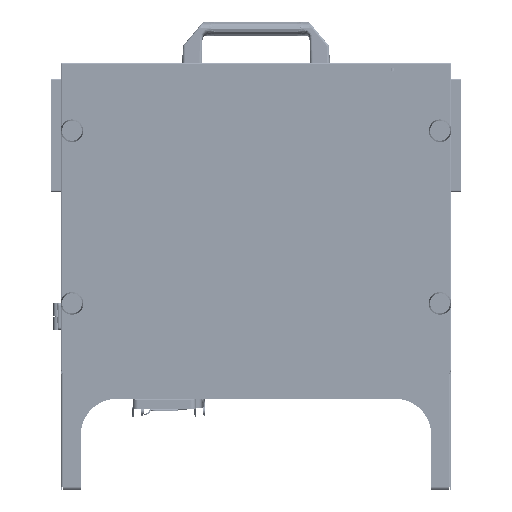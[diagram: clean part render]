
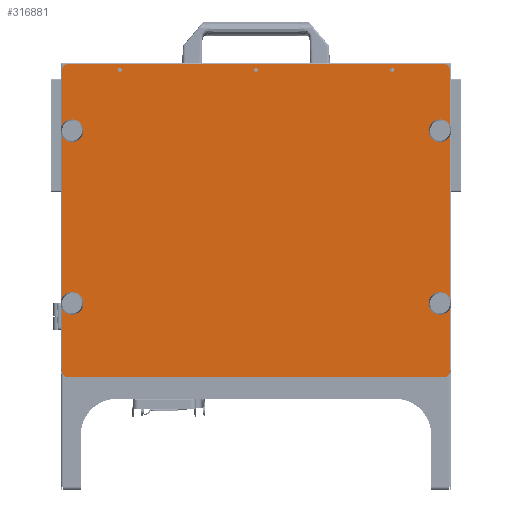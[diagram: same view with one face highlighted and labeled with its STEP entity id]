
A CAD part, top view. The second image highlights one B-rep face of the part: STEP entity #316881.
In plain terms, the highlighted planar face has unit normal (0, 0, 1) as drawn and (0, 0, -1) by its records, which use the part's own axes.
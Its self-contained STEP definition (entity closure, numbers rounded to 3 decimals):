
#316172=CARTESIAN_POINT('',(213.,338.,0.));
#316173=DIRECTION('',(0.,0.,1.));
#316174=DIRECTION('',(1.,0.,0.));
#316175=AXIS2_PLACEMENT_3D('',#316172,#316173,#316174);
#316177=CARTESIAN_POINT('',(213.,338.,0.));
#316178=DIRECTION('',(0.,0.,1.));
#316179=DIRECTION('',(-1.,0.,0.));
#316180=AXIS2_PLACEMENT_3D('',#316177,#316178,#316179);
#316182=CARTESIAN_POINT('',(363.,338.,0.));
#316183=DIRECTION('',(0.,0.,1.));
#316184=DIRECTION('',(1.,0.,0.));
#316185=AXIS2_PLACEMENT_3D('',#316182,#316183,#316184);
#316187=CARTESIAN_POINT('',(363.,338.,0.));
#316188=DIRECTION('',(0.,0.,1.));
#316189=DIRECTION('',(-1.,0.,0.));
#316190=AXIS2_PLACEMENT_3D('',#316187,#316188,#316189);
#316192=CARTESIAN_POINT('',(63.,338.,0.));
#316193=DIRECTION('',(0.,0.,1.));
#316194=DIRECTION('',(1.,0.,0.));
#316195=AXIS2_PLACEMENT_3D('',#316192,#316193,#316194);
#316197=CARTESIAN_POINT('',(63.,338.,0.));
#316198=DIRECTION('',(0.,0.,1.));
#316199=DIRECTION('',(-1.,0.,0.));
#316200=AXIS2_PLACEMENT_3D('',#316197,#316198,#316199);
#316202=CARTESIAN_POINT('',(10.5,271.,0.));
#316203=DIRECTION('',(0.,0.,1.));
#316204=DIRECTION('',(1.,0.,0.));
#316205=AXIS2_PLACEMENT_3D('',#316202,#316203,#316204);
#316207=CARTESIAN_POINT('',(10.5,271.,0.));
#316208=DIRECTION('',(0.,0.,1.));
#316209=DIRECTION('',(-1.,0.,0.));
#316210=AXIS2_PLACEMENT_3D('',#316207,#316208,#316209);
#316212=CARTESIAN_POINT('',(415.5,271.,0.));
#316213=DIRECTION('',(0.,0.,1.));
#316214=DIRECTION('',(1.,0.,0.));
#316215=AXIS2_PLACEMENT_3D('',#316212,#316213,#316214);
#316217=CARTESIAN_POINT('',(415.5,271.,0.));
#316218=DIRECTION('',(0.,0.,1.));
#316219=DIRECTION('',(-1.,0.,0.));
#316220=AXIS2_PLACEMENT_3D('',#316217,#316218,#316219);
#316222=CARTESIAN_POINT('',(10.5,81.,0.));
#316223=DIRECTION('',(0.,0.,1.));
#316224=DIRECTION('',(1.,0.,0.));
#316225=AXIS2_PLACEMENT_3D('',#316222,#316223,#316224);
#316227=CARTESIAN_POINT('',(10.5,81.,0.));
#316228=DIRECTION('',(0.,0.,1.));
#316229=DIRECTION('',(-1.,0.,0.));
#316230=AXIS2_PLACEMENT_3D('',#316227,#316228,#316229);
#316232=CARTESIAN_POINT('',(415.5,81.,0.));
#316233=DIRECTION('',(0.,0.,1.));
#316234=DIRECTION('',(1.,0.,0.));
#316235=AXIS2_PLACEMENT_3D('',#316232,#316233,#316234);
#316237=CARTESIAN_POINT('',(415.5,81.,0.));
#316238=DIRECTION('',(0.,0.,1.));
#316239=DIRECTION('',(-1.,0.,0.));
#316240=AXIS2_PLACEMENT_3D('',#316237,#316238,#316239);
#316242=CARTESIAN_POINT('',(5.,5.,0.));
#316243=DIRECTION('',(0.,0.,-1.));
#316244=DIRECTION('',(0.,-1.,0.));
#316245=AXIS2_PLACEMENT_3D('',#316242,#316243,#316244);
#316247=DIRECTION('',(1.,0.,0.));
#316248=VECTOR('',#316247,416.);
#316249=CARTESIAN_POINT('',(5.,0.,0.));
#316250=LINE('',#316249,#316248);
#316251=CARTESIAN_POINT('',(421.,5.,0.));
#316252=DIRECTION('',(0.,0.,-1.));
#316253=DIRECTION('',(1.,0.,0.));
#316254=AXIS2_PLACEMENT_3D('',#316251,#316252,#316253);
#316256=DIRECTION('',(0.,1.,0.));
#316257=VECTOR('',#316256,334.);
#316258=CARTESIAN_POINT('',(426.,5.,0.));
#316259=LINE('',#316258,#316257);
#316260=CARTESIAN_POINT('',(421.,339.,0.));
#316261=DIRECTION('',(0.,0.,-1.));
#316262=DIRECTION('',(0.,1.,0.));
#316263=AXIS2_PLACEMENT_3D('',#316260,#316261,#316262);
#316265=DIRECTION('',(-1.,0.,0.));
#316266=VECTOR('',#316265,416.);
#316267=CARTESIAN_POINT('',(421.,344.,0.));
#316268=LINE('',#316267,#316266);
#316269=CARTESIAN_POINT('',(5.,339.,0.));
#316270=DIRECTION('',(0.,0.,-1.));
#316271=DIRECTION('',(-1.,0.,0.));
#316272=AXIS2_PLACEMENT_3D('',#316269,#316270,#316271);
#316274=DIRECTION('',(0.,-1.,0.));
#316275=VECTOR('',#316274,334.);
#316276=CARTESIAN_POINT('',(0.,339.,0.));
#316277=LINE('',#316276,#316275);
#316664=CARTESIAN_POINT('',(215.2,338.,0.));
#316665=CARTESIAN_POINT('',(210.8,338.,0.));
#316666=VERTEX_POINT('',#316664);
#316667=VERTEX_POINT('',#316665);
#316668=CARTESIAN_POINT('',(365.2,338.,0.));
#316669=CARTESIAN_POINT('',(360.8,338.,0.));
#316670=VERTEX_POINT('',#316668);
#316671=VERTEX_POINT('',#316669);
#316672=CARTESIAN_POINT('',(65.2,338.,0.));
#316673=CARTESIAN_POINT('',(60.8,338.,0.));
#316674=VERTEX_POINT('',#316672);
#316675=VERTEX_POINT('',#316673);
#316752=CARTESIAN_POINT('',(14.5,271.,0.));
#316753=CARTESIAN_POINT('',(6.5,271.,0.));
#316754=VERTEX_POINT('',#316752);
#316755=VERTEX_POINT('',#316753);
#316756=CARTESIAN_POINT('',(419.5,271.,0.));
#316757=CARTESIAN_POINT('',(411.5,271.,0.));
#316758=VERTEX_POINT('',#316756);
#316759=VERTEX_POINT('',#316757);
#316768=CARTESIAN_POINT('',(5.,0.,0.));
#316769=CARTESIAN_POINT('',(0.,5.,0.));
#316770=VERTEX_POINT('',#316768);
#316771=VERTEX_POINT('',#316769);
#316776=CARTESIAN_POINT('',(426.,5.,0.));
#316777=CARTESIAN_POINT('',(421.,0.,0.));
#316778=VERTEX_POINT('',#316776);
#316779=VERTEX_POINT('',#316777);
#316784=CARTESIAN_POINT('',(421.,344.,0.));
#316785=CARTESIAN_POINT('',(426.,339.,0.));
#316786=VERTEX_POINT('',#316784);
#316787=VERTEX_POINT('',#316785);
#316792=CARTESIAN_POINT('',(0.,339.,0.));
#316793=CARTESIAN_POINT('',(5.,344.,0.));
#316794=VERTEX_POINT('',#316792);
#316795=VERTEX_POINT('',#316793);
#316800=CARTESIAN_POINT('',(14.5,81.,0.));
#316801=CARTESIAN_POINT('',(6.5,81.,0.));
#316802=VERTEX_POINT('',#316800);
#316803=VERTEX_POINT('',#316801);
#316804=CARTESIAN_POINT('',(419.5,81.,0.));
#316805=CARTESIAN_POINT('',(411.5,81.,0.));
#316806=VERTEX_POINT('',#316804);
#316807=VERTEX_POINT('',#316805);
#316816=CARTESIAN_POINT('',(0.,0.,0.));
#316817=DIRECTION('',(0.,0.,1.));
#316818=DIRECTION('',(1.,0.,0.));
#316819=AXIS2_PLACEMENT_3D('',#316816,#316817,#316818);
#316820=PLANE('',#316819);
#316822=ORIENTED_EDGE('',*,*,#316821,.F.);
#316824=ORIENTED_EDGE('',*,*,#316823,.T.);
#316826=ORIENTED_EDGE('',*,*,#316825,.F.);
#316828=ORIENTED_EDGE('',*,*,#316827,.T.);
#316830=ORIENTED_EDGE('',*,*,#316829,.F.);
#316832=ORIENTED_EDGE('',*,*,#316831,.T.);
#316834=ORIENTED_EDGE('',*,*,#316833,.F.);
#316836=ORIENTED_EDGE('',*,*,#316835,.T.);
#316837=EDGE_LOOP('',(#316822,#316824,#316826,#316828,#316830,#316832,#316834,
#316836));
#316838=FACE_OUTER_BOUND('',#316837,.F.);
#316840=ORIENTED_EDGE('',*,*,#316839,.F.);
#316842=ORIENTED_EDGE('',*,*,#316841,.F.);
#316843=EDGE_LOOP('',(#316840,#316842));
#316844=FACE_BOUND('',#316843,.F.);
#316846=ORIENTED_EDGE('',*,*,#316845,.F.);
#316848=ORIENTED_EDGE('',*,*,#316847,.F.);
#316849=EDGE_LOOP('',(#316846,#316848));
#316850=FACE_BOUND('',#316849,.F.);
#316852=ORIENTED_EDGE('',*,*,#316851,.F.);
#316854=ORIENTED_EDGE('',*,*,#316853,.F.);
#316855=EDGE_LOOP('',(#316852,#316854));
#316856=FACE_BOUND('',#316855,.F.);
#316858=ORIENTED_EDGE('',*,*,#316857,.F.);
#316860=ORIENTED_EDGE('',*,*,#316859,.F.);
#316861=EDGE_LOOP('',(#316858,#316860));
#316862=FACE_BOUND('',#316861,.F.);
#316864=ORIENTED_EDGE('',*,*,#316863,.F.);
#316866=ORIENTED_EDGE('',*,*,#316865,.F.);
#316867=EDGE_LOOP('',(#316864,#316866));
#316868=FACE_BOUND('',#316867,.F.);
#316870=ORIENTED_EDGE('',*,*,#316869,.F.);
#316872=ORIENTED_EDGE('',*,*,#316871,.F.);
#316873=EDGE_LOOP('',(#316870,#316872));
#316874=FACE_BOUND('',#316873,.F.);
#316876=ORIENTED_EDGE('',*,*,#316875,.F.);
#316878=ORIENTED_EDGE('',*,*,#316877,.F.);
#316879=EDGE_LOOP('',(#316876,#316878));
#316880=FACE_BOUND('',#316879,.F.);
#316176=CIRCLE('',#316175,2.2);
#316181=CIRCLE('',#316180,2.2);
#316186=CIRCLE('',#316185,2.2);
#316191=CIRCLE('',#316190,2.2);
#316196=CIRCLE('',#316195,2.2);
#316201=CIRCLE('',#316200,2.2);
#316206=CIRCLE('',#316205,4.);
#316211=CIRCLE('',#316210,4.);
#316216=CIRCLE('',#316215,4.);
#316221=CIRCLE('',#316220,4.);
#316226=CIRCLE('',#316225,4.);
#316231=CIRCLE('',#316230,4.);
#316236=CIRCLE('',#316235,4.);
#316241=CIRCLE('',#316240,4.);
#316246=CIRCLE('',#316245,5.);
#316255=CIRCLE('',#316254,5.);
#316264=CIRCLE('',#316263,5.);
#316273=CIRCLE('',#316272,5.);
#316821=EDGE_CURVE('',#316770,#316771,#316246,.T.);
#316823=EDGE_CURVE('',#316770,#316779,#316250,.T.);
#316825=EDGE_CURVE('',#316778,#316779,#316255,.T.);
#316827=EDGE_CURVE('',#316778,#316787,#316259,.T.);
#316829=EDGE_CURVE('',#316786,#316787,#316264,.T.);
#316831=EDGE_CURVE('',#316786,#316795,#316268,.T.);
#316833=EDGE_CURVE('',#316794,#316795,#316273,.T.);
#316835=EDGE_CURVE('',#316794,#316771,#316277,.T.);
#316839=EDGE_CURVE('',#316670,#316671,#316186,.T.);
#316841=EDGE_CURVE('',#316671,#316670,#316191,.T.);
#316845=EDGE_CURVE('',#316674,#316675,#316196,.T.);
#316847=EDGE_CURVE('',#316675,#316674,#316201,.T.);
#316851=EDGE_CURVE('',#316754,#316755,#316206,.T.);
#316853=EDGE_CURVE('',#316755,#316754,#316211,.T.);
#316857=EDGE_CURVE('',#316758,#316759,#316216,.T.);
#316859=EDGE_CURVE('',#316759,#316758,#316221,.T.);
#316863=EDGE_CURVE('',#316802,#316803,#316226,.T.);
#316865=EDGE_CURVE('',#316803,#316802,#316231,.T.);
#316869=EDGE_CURVE('',#316806,#316807,#316236,.T.);
#316871=EDGE_CURVE('',#316807,#316806,#316241,.T.);
#316875=EDGE_CURVE('',#316666,#316667,#316176,.T.);
#316877=EDGE_CURVE('',#316667,#316666,#316181,.T.);
#316881=ADVANCED_FACE('',(#316838,#316844,#316850,#316856,#316862,#316868,
#316874,#316880),#316820,.F.);
